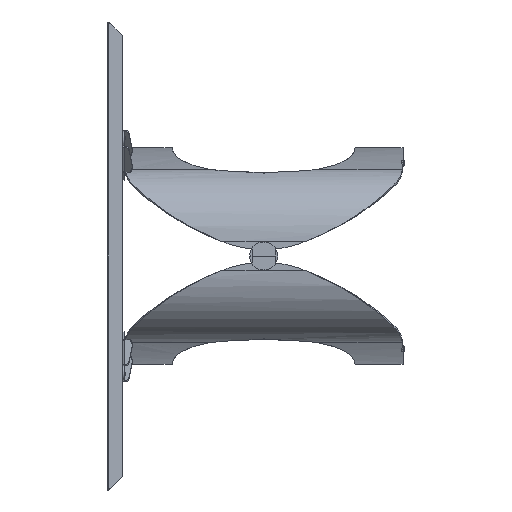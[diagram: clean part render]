
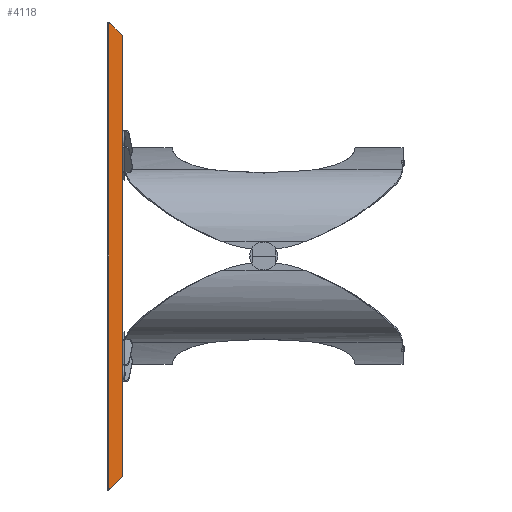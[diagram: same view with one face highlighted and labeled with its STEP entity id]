
A CAD part, left-side view. The second image highlights one B-rep face of the part: STEP entity #4118.
In plain terms, the highlighted planar face has unit normal (-0.707, -0.707, 0).
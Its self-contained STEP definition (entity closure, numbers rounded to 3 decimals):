
#174 = CARTESIAN_POINT ( 'NONE',  ( -1200., 35., -600. ) ) ;
#990 = CARTESIAN_POINT ( 'NONE',  ( -1165.293, 0.293, 565.293 ) ) ;
#1118 = DIRECTION ( 'NONE',  ( 0.577, -0.577, -0.577 ) ) ;
#1323 = CARTESIAN_POINT ( 'NONE',  ( -1199.486, 34.486, -597.585 ) ) ;
#1614 = CARTESIAN_POINT ( 'NONE',  ( -1198.536, 33.536, 598.536 ) ) ;
#2940 = CARTESIAN_POINT ( 'NONE',  ( -1198.536, 33.536, -598.536 ) ) ;
#3064 = VERTEX_POINT ( 'NONE', #990 ) ;
#3281 = CARTESIAN_POINT ( 'NONE',  ( -1200., 35., 595. ) ) ;
#3683 = EDGE_CURVE ( 'NONE', #21020, #15089, #10026, .T. ) ;
#4118 = ADVANCED_FACE ( 'NONE', ( #18888 ), #18755, .F. ) ;
#4272 =( BOUNDED_CURVE ( )  B_SPLINE_CURVE ( 3, ( #19743, #7459, #1323, #2940 ),
 .UNSPECIFIED., .F., .T. ) 
 B_SPLINE_CURVE_WITH_KNOTS ( ( 4, 4 ),
 ( 3.142, 3.927 ),
 .UNSPECIFIED. ) 
 CURVE ( )  GEOMETRIC_REPRESENTATION_ITEM ( )  RATIONAL_B_SPLINE_CURVE ( ( 1., 0.949, 0.949, 1. ) ) 
 REPRESENTATION_ITEM ( '' )  );
#4404 = DIRECTION ( 'NONE',  ( 0., 0., 1. ) ) ;
#4896 = LINE ( 'NONE', #6938, #17802 ) ;
#5576 = CARTESIAN_POINT ( 'NONE',  ( -1200., 35., 596.344 ) ) ;
#6371 = ORIENTED_EDGE ( 'NONE', *, *, #3683, .T. ) ;
#6938 = CARTESIAN_POINT ( 'NONE',  ( -1200., 35., -600. ) ) ;
#7459 = CARTESIAN_POINT ( 'NONE',  ( -1200., 35., -596.344 ) ) ;
#7508 = CARTESIAN_POINT ( 'NONE',  ( -1198.536, 33.536, 598.536 ) ) ;
#7684 = VECTOR ( 'NONE', #13978, 1000. ) ;
#8591 = VECTOR ( 'NONE', #1118, 1000. ) ;
#9006 = EDGE_CURVE ( 'NONE', #23994, #18023, #12108, .T. ) ;
#9261 = DIRECTION ( 'NONE',  ( 0., 0., 1. ) ) ;
#9955 = CARTESIAN_POINT ( 'NONE',  ( -1165.293, 0.293, -565.293 ) ) ;
#10026 =( BOUNDED_CURVE ( )  B_SPLINE_CURVE ( 3, ( #1614, #20455, #5576, #16097 ),
 .UNSPECIFIED., .F., .T. ) 
 B_SPLINE_CURVE_WITH_KNOTS ( ( 4, 4 ),
 ( 2.356, 3.142 ),
 .UNSPECIFIED. ) 
 CURVE ( )  GEOMETRIC_REPRESENTATION_ITEM ( )  RATIONAL_B_SPLINE_CURVE ( ( 1., 0.949, 0.949, 1. ) ) 
 REPRESENTATION_ITEM ( '' )  );
#11146 = EDGE_LOOP ( 'NONE', ( #16901, #23641, #18570, #6371, #14765, #20102 ) ) ;
#11285 = VERTEX_POINT ( 'NONE', #20841 ) ;
#12108 = LINE ( 'NONE', #20430, #26130 ) ;
#13548 = LINE ( 'NONE', #21729, #8591 ) ;
#13715 = EDGE_CURVE ( 'NONE', #11285, #15089, #4896, .T. ) ;
#13978 = DIRECTION ( 'NONE',  ( 0., 0., 1. ) ) ;
#14765 = ORIENTED_EDGE ( 'NONE', *, *, #13715, .F. ) ;
#15089 = VERTEX_POINT ( 'NONE', #3281 ) ;
#15479 = EDGE_CURVE ( 'NONE', #11285, #23994, #4272, .T. ) ;
#16097 = CARTESIAN_POINT ( 'NONE',  ( -1200., 35., 595. ) ) ;
#16707 = EDGE_CURVE ( 'NONE', #18023, #3064, #24071, .T. ) ;
#16901 = ORIENTED_EDGE ( 'NONE', *, *, #9006, .T. ) ;
#16972 = DIRECTION ( 'NONE',  ( 0.707, 0.707, 0. ) ) ;
#17802 = VECTOR ( 'NONE', #9261, 1000. ) ;
#17934 = CARTESIAN_POINT ( 'NONE',  ( -1165.293, 0.293, 565. ) ) ;
#18023 = VERTEX_POINT ( 'NONE', #9955 ) ;
#18570 = ORIENTED_EDGE ( 'NONE', *, *, #20149, .F. ) ;
#18755 = PLANE ( 'NONE',  #19463 ) ;
#18888 = FACE_OUTER_BOUND ( 'NONE', #11146, .T. ) ;
#19463 = AXIS2_PLACEMENT_3D ( 'NONE', #174, #16972, #4404 ) ;
#19743 = CARTESIAN_POINT ( 'NONE',  ( -1200., 35., -595. ) ) ;
#20102 = ORIENTED_EDGE ( 'NONE', *, *, #15479, .T. ) ;
#20149 = EDGE_CURVE ( 'NONE', #21020, #3064, #13548, .T. ) ;
#20430 = CARTESIAN_POINT ( 'NONE',  ( -1200., 35., -600. ) ) ;
#20455 = CARTESIAN_POINT ( 'NONE',  ( -1199.486, 34.486, 597.585 ) ) ;
#20841 = CARTESIAN_POINT ( 'NONE',  ( -1200., 35., -595. ) ) ;
#21020 = VERTEX_POINT ( 'NONE', #7508 ) ;
#21729 = CARTESIAN_POINT ( 'NONE',  ( -800., -365., 200. ) ) ;
#21948 = DIRECTION ( 'NONE',  ( 0.577, -0.577, 0.577 ) ) ;
#23641 = ORIENTED_EDGE ( 'NONE', *, *, #16707, .T. ) ;
#23994 = VERTEX_POINT ( 'NONE', #25075 ) ;
#24071 = LINE ( 'NONE', #17934, #7684 ) ;
#25075 = CARTESIAN_POINT ( 'NONE',  ( -1198.536, 33.536, -598.536 ) ) ;
#26130 = VECTOR ( 'NONE', #21948, 1000. ) ;
